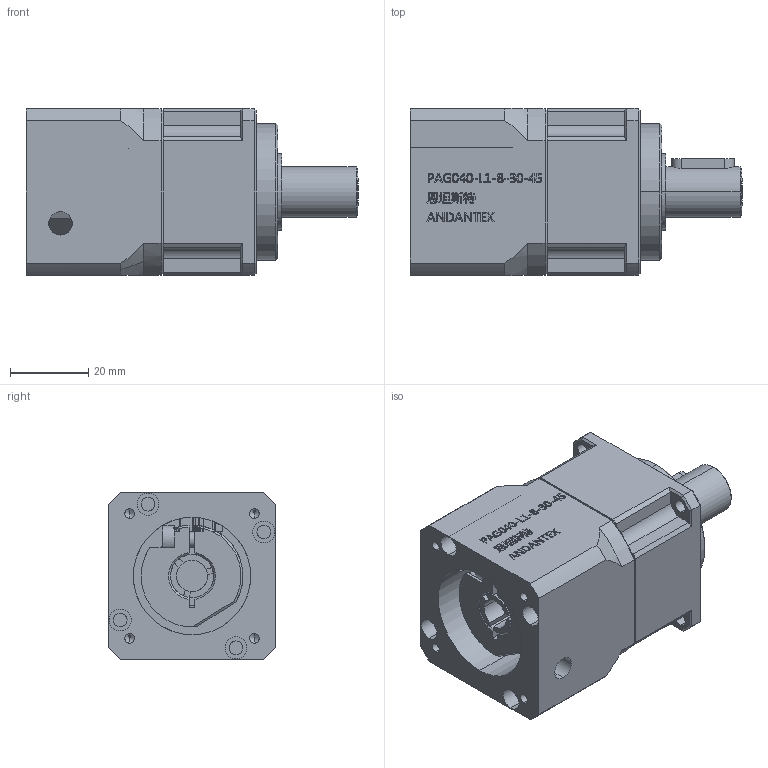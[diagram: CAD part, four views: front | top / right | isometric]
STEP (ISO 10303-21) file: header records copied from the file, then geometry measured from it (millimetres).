
FILE_DESCRIPTION (( 'STEP AP203' ), '1' );
FILE_NAME ('PAG042-L1-8-30-45.STEP', '2022-07-18T07:02:50', ( 'Windows User' ), ( 'P R C' ), 'SwSTEP 2.0', 'SolidWorks 2016', '' );
FILE_SCHEMA (( 'CONFIG_CONTROL_DESIGN' ));
Length unit declared in the file: millimetre
Products named in the file (6): PAG040-CQ01; PAG40-WZZ-8-30-M3-45-LR28_1123; PAG40-SJH(坶踡遠謂11); M3x12; 5X5X16; PAG042-L1-8-30-45
Assembly tree (5 placements, depth 2):
  PAG042-L1-8-30-45
    PAG040-CQ01
    PAG40-WZZ-8-30-M3-45-LR28_1123
    PAG40-SJH(坶踡遠謂11)
    M3x12
    5X5X16
Bounding box: 84.8 x 42.6 x 42.6 mm (x, y, z)
Volume: 93040.8 mm3; surface area: 31362.8 mm2
Topology: 21 solids, 21 shells, 1040 faces, 2877 edges, 1898 vertices
Faces by surface type: plane 626, bspline 213, cylinder 140, cone 54, sphere 5, torus 2
Entity records: 41833 total; most frequent: CARTESIAN_POINT 15953, ORIENTED_EDGE 5734, DIRECTION 4403, EDGE_CURVE 2867, VERTEX_POINT 1898, VECTOR 1813, LINE 1813, AXIS2_PLACEMENT_3D 1295
